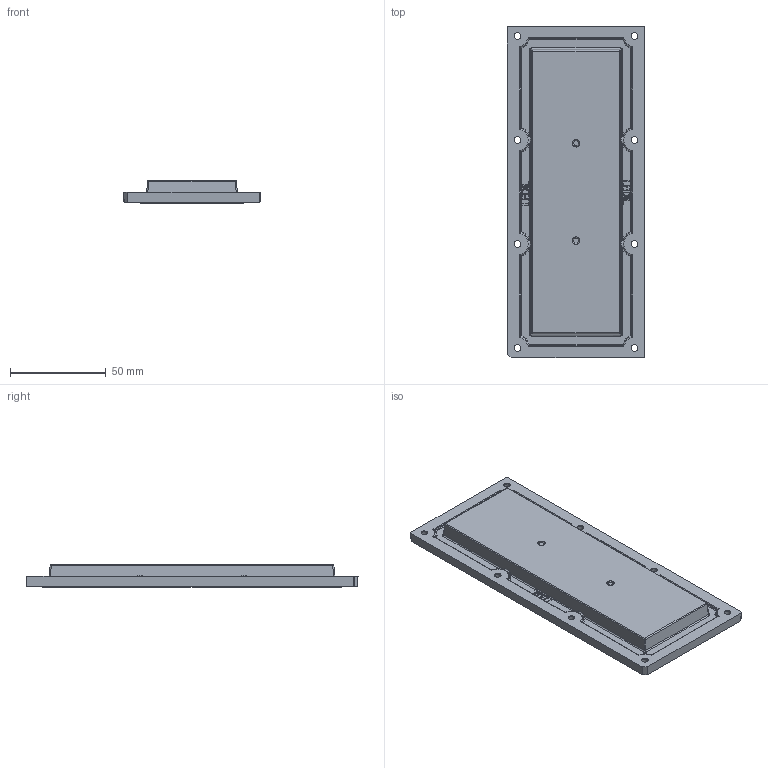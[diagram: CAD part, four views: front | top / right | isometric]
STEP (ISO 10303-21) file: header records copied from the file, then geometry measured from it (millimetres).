
FILE_DESCRIPTION(('CATIA V5 STEP Exchange'),'2;1');
FILE_NAME('Z:\Engineering\Design Library\Strada\5-Mech_models\2x6\CS14263_HB-IP-2X6-WWW MechanicalModel.stp','2014-03-19T12:09:54+00:00',('none'),('none'),'Version 5-6 Release 2013','CATIA V5 STEP AP203','none');
FILE_SCHEMA(('CONFIG_CONTROL_DESIGN'));
Products named in the file (1): C14229
Bounding box: 71.4 x 173 x 11.89 mm (x, y, z)
Volume: 52359.8 mm3; surface area: 46605.9 mm2
Topology: 2 solids, 2 shells, 1932 faces, 4833 edges, 2753 vertices
Faces by surface type: bspline 841, plane 456, cylinder 238, torus 196, cone 169, sphere 32
Entity records: 95869 total; most frequent: CARTESIAN_POINT 59535, ORIENTED_EDGE 9216, EDGE_CURVE 4608, DIRECTION 4120, VERTEX_POINT 2753, B_SPLINE_CURVE_WITH_KNOTS 2324, EDGE_LOOP 2043, ADVANCED_FACE 1932
